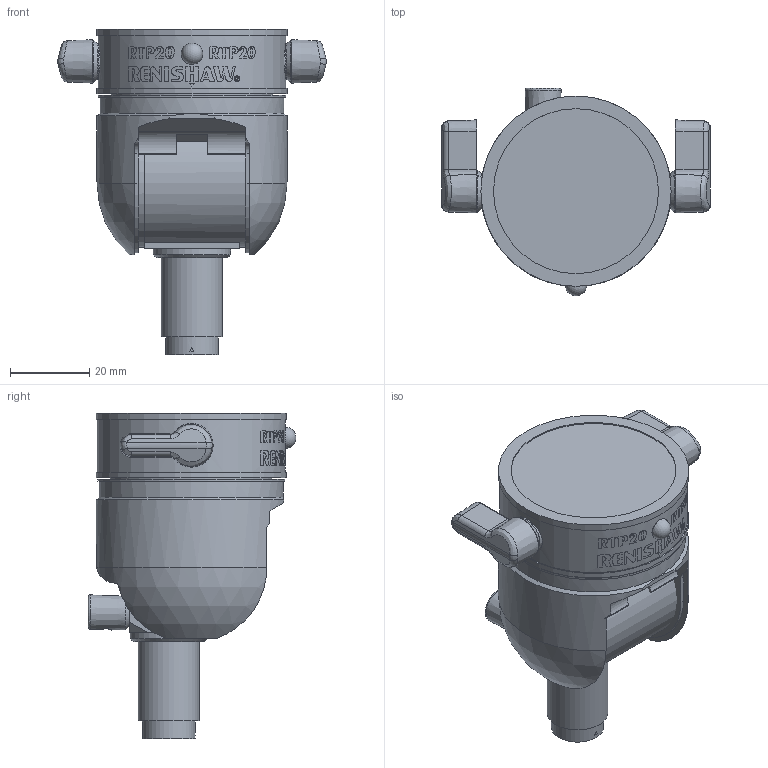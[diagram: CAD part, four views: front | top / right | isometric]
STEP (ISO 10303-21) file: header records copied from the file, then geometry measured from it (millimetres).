
FILE_DESCRIPTION(/* description */ (''),/* implementation_level */ '2;1');
FILE_NAME(/* name */ 'LA-5400-0100#-C.stp',/* time_stamp */ '2012-09-07T07:53:42+01:00',/* author */ (''),/* organization */ (''),/* preprocessor_version */ 'ST-DEVELOPER v11',/* originating_system */ 'SIEMENS PLM Software NX 7.5',/* authorisation */ '');
FILE_SCHEMA (('AUTOMOTIVE_DESIGN { 1 0 10303 214 1 1 1 1 }'));
Length unit declared in the file: millimetre
Products named in the file (1): rt13371Ayuo8
Bounding box: 67.73 x 52.43 x 82.12 mm (x, y, z)
Volume: 95845.3 mm3; surface area: 25987.6 mm2
Topology: 4 solids, 4 shells, 214 faces, 679 edges, 513 vertices
Faces by surface type: cylinder 79, plane 68, bspline 24, cone 22, torus 19, sphere 2
Full cylindrical faces by diameter (mm): 3.2 x1, 5.65 x1, 9.9 x2, 12.5 x1, 13.25 x1, 15.4 x1, 19.5 x1, 32.18 x1, 32.4 x1, 40.9 x1, 41.6 x1, 46.4 x1, 47.2 x1, 47.4 x1, 48 x2
Entity records: 9247 total; most frequent: CARTESIAN_POINT 3195, ORIENTED_EDGE 1274, DIRECTION 916, EDGE_CURVE 637, VERTEX_POINT 500, AXIS2_PLACEMENT_3D 394, B_SPLINE_CURVE_WITH_KNOTS 306, EDGE_LOOP 283
